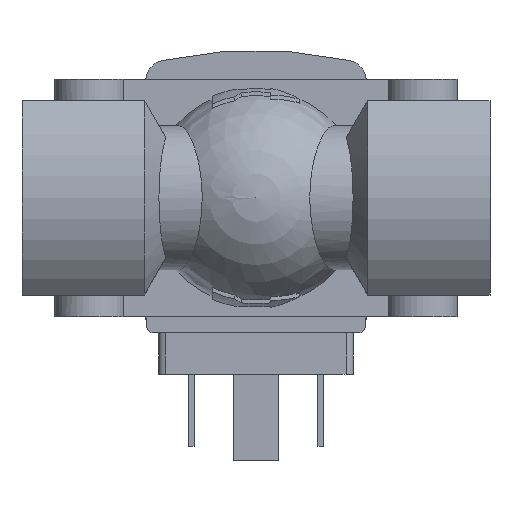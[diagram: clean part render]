
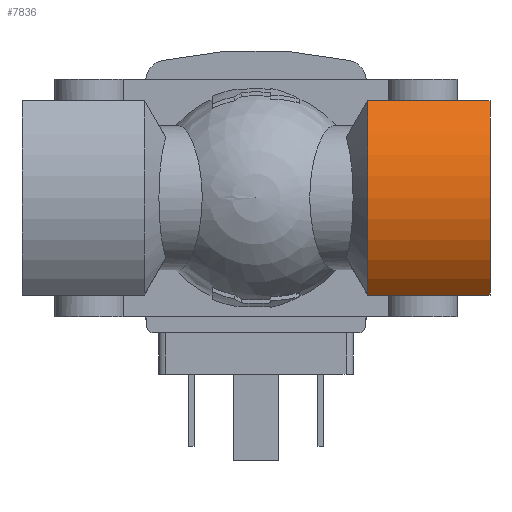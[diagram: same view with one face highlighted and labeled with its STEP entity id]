
A CAD part, front view. The second image highlights one B-rep face of the part: STEP entity #7836.
In plain terms, the highlighted cylindrical face has radius 19 mm (diameter 38 mm), a partial arc.
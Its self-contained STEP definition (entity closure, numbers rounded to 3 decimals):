
#75=CYLINDRICAL_SURFACE('',#10477,19.);
#255=LINE('',#13748,#1113);
#257=LINE('',#13752,#1115);
#1113=VECTOR('',#11422,1000.);
#1115=VECTOR('',#11426,1000.);
#2205=ORIENTED_EDGE('',*,*,#4396,.T.);
#2206=ORIENTED_EDGE('',*,*,#4387,.F.);
#2207=ORIENTED_EDGE('',*,*,#4397,.F.);
#2208=ORIENTED_EDGE('',*,*,#4385,.T.);
#4385=EDGE_CURVE('',#5494,#5493,#255,.T.);
#4387=EDGE_CURVE('',#5495,#5496,#257,.T.);
#4396=EDGE_CURVE('',#5493,#5496,#6230,.T.);
#4397=EDGE_CURVE('',#5494,#5495,#6231,.T.);
#5493=VERTEX_POINT('',#13747);
#5494=VERTEX_POINT('',#13749);
#5495=VERTEX_POINT('',#13753);
#5496=VERTEX_POINT('',#13754);
#6230=CIRCLE('',#10478,19.);
#6231=CIRCLE('',#10479,19.);
#6485=EDGE_LOOP('',(#2205,#2206,#2207,#2208));
#6987=FACE_BOUND('',#6485,.T.);
#7836=ADVANCED_FACE('',(#6987),#75,.T.);
#10477=AXIS2_PLACEMENT_3D('',#13775,#11440,#11441);
#10478=AXIS2_PLACEMENT_3D('',#13776,#11442,#11443);
#10479=AXIS2_PLACEMENT_3D('',#13777,#11444,#11445);
#11422=DIRECTION('',(-1.,0.,0.));
#11426=DIRECTION('',(-1.,0.,0.));
#11440=DIRECTION('',(-1.,0.,0.));
#11441=DIRECTION('',(0.,0.,1.));
#11442=DIRECTION('',(1.,0.,0.));
#11443=DIRECTION('',(0.,0.,-1.));
#11444=DIRECTION('',(1.,0.,0.));
#11445=DIRECTION('',(0.,0.,-1.));
#13747=CARTESIAN_POINT('',(15.5,-7.87,13.5));
#13748=CARTESIAN_POINT('',(32.5,-7.87,13.5));
#13749=CARTESIAN_POINT('',(32.5,-7.87,13.5));
#13752=CARTESIAN_POINT('',(32.5,-7.87,-13.5));
#13753=CARTESIAN_POINT('',(32.5,-7.87,-13.5));
#13754=CARTESIAN_POINT('',(15.5,-7.87,-13.5));
#13775=CARTESIAN_POINT('',(32.5,5.5,0.));
#13776=CARTESIAN_POINT('',(15.5,5.5,0.));
#13777=CARTESIAN_POINT('',(32.5,5.5,0.));
